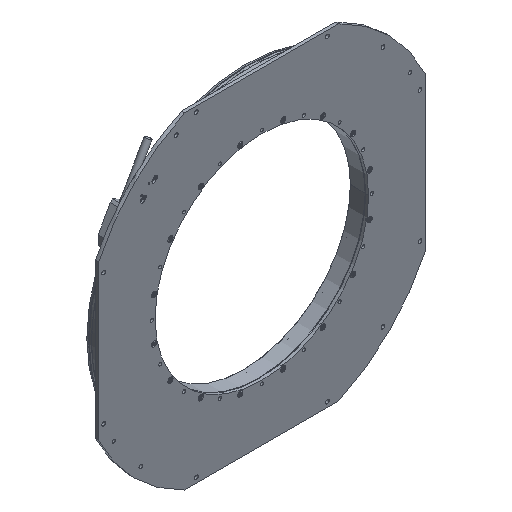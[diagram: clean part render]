
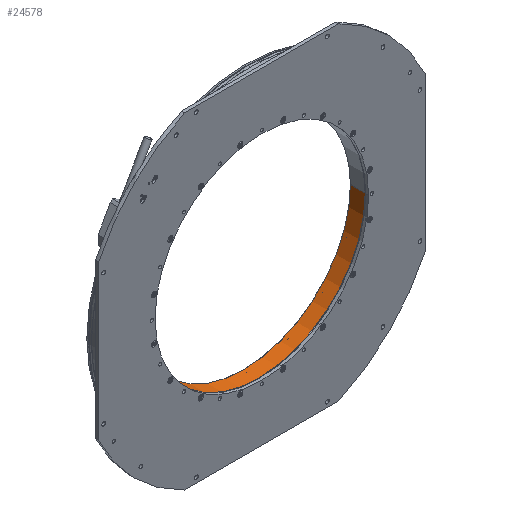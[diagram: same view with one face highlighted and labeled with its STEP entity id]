
A CAD part, isometric view. The second image highlights one B-rep face of the part: STEP entity #24578.
In plain terms, the highlighted cylindrical face has radius 170 mm (diameter 340 mm), a partial arc.
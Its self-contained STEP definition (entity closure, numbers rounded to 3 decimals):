
#362 = CARTESIAN_POINT ( 'NONE',  ( -170., 5.5, 0. ) ) ;
#663 = DIRECTION ( 'NONE',  ( 0., -1., 0. ) ) ;
#667 = VERTEX_POINT ( 'NONE', #17606 ) ;
#1711 = ORIENTED_EDGE ( 'NONE', *, *, #5420, .T. ) ;
#3052 = VERTEX_POINT ( 'NONE', #362 ) ;
#3910 = EDGE_CURVE ( 'NONE', #13287, #3052, #21446, .T. ) ;
#4904 = CARTESIAN_POINT ( 'NONE',  ( 170., 5., 0. ) ) ;
#5199 = ORIENTED_EDGE ( 'NONE', *, *, #22069, .T. ) ;
#5347 = CARTESIAN_POINT ( 'NONE',  ( 0., 5.5, 0. ) ) ;
#5420 = EDGE_CURVE ( 'NONE', #3052, #667, #14412, .T. ) ;
#6208 = VECTOR ( 'NONE', #8648, 1000. ) ;
#8648 = DIRECTION ( 'NONE',  ( 0., -1., 0. ) ) ;
#9810 = ORIENTED_EDGE ( 'NONE', *, *, #20918, .F. ) ;
#10704 = DIRECTION ( 'NONE',  ( -1., 0., 0. ) ) ;
#11003 = CYLINDRICAL_SURFACE ( 'NONE', #16683, 170. ) ;
#12183 = DIRECTION ( 'NONE',  ( 0., -1., 0. ) ) ;
#12652 = EDGE_LOOP ( 'NONE', ( #5199, #24211, #1711, #9810 ) ) ;
#12662 = CARTESIAN_POINT ( 'NONE',  ( 0., 29., 0. ) ) ;
#13277 = AXIS2_PLACEMENT_3D ( 'NONE', #5347, #13455, #19415 ) ;
#13287 = VERTEX_POINT ( 'NONE', #18821 ) ;
#13347 = AXIS2_PLACEMENT_3D ( 'NONE', #12662, #14812, #10704 ) ;
#13455 = DIRECTION ( 'NONE',  ( 0., -1., 0. ) ) ;
#14063 = CARTESIAN_POINT ( 'NONE',  ( 0., 5., 0. ) ) ;
#14412 = CIRCLE ( 'NONE', #13277, 170. ) ;
#14545 = CARTESIAN_POINT ( 'NONE',  ( -170., 5., 0. ) ) ;
#14812 = DIRECTION ( 'NONE',  ( 0., 1., 0. ) ) ;
#16683 = AXIS2_PLACEMENT_3D ( 'NONE', #14063, #12183, #18073 ) ;
#17606 = CARTESIAN_POINT ( 'NONE',  ( 170., 5.5, 0. ) ) ;
#18073 = DIRECTION ( 'NONE',  ( 1., 0., 0. ) ) ;
#18350 = FACE_OUTER_BOUND ( 'NONE', #12652, .T. ) ;
#18613 = VECTOR ( 'NONE', #663, 1000. ) ;
#18821 = CARTESIAN_POINT ( 'NONE',  ( -170., 29., 0. ) ) ;
#19415 = DIRECTION ( 'NONE',  ( 1., 0., 0. ) ) ;
#20918 = EDGE_CURVE ( 'NONE', #22593, #667, #23997, .T. ) ;
#21446 = LINE ( 'NONE', #14545, #6208 ) ;
#21619 = CIRCLE ( 'NONE', #13347, 170. ) ;
#22069 = EDGE_CURVE ( 'NONE', #22593, #13287, #21619, .T. ) ;
#22593 = VERTEX_POINT ( 'NONE', #24885 ) ;
#23997 = LINE ( 'NONE', #4904, #18613 ) ;
#24211 = ORIENTED_EDGE ( 'NONE', *, *, #3910, .T. ) ;
#24578 = ADVANCED_FACE ( 'NONE', ( #18350 ), #11003, .F. ) ;
#24885 = CARTESIAN_POINT ( 'NONE',  ( 170., 29., 0. ) ) ;
